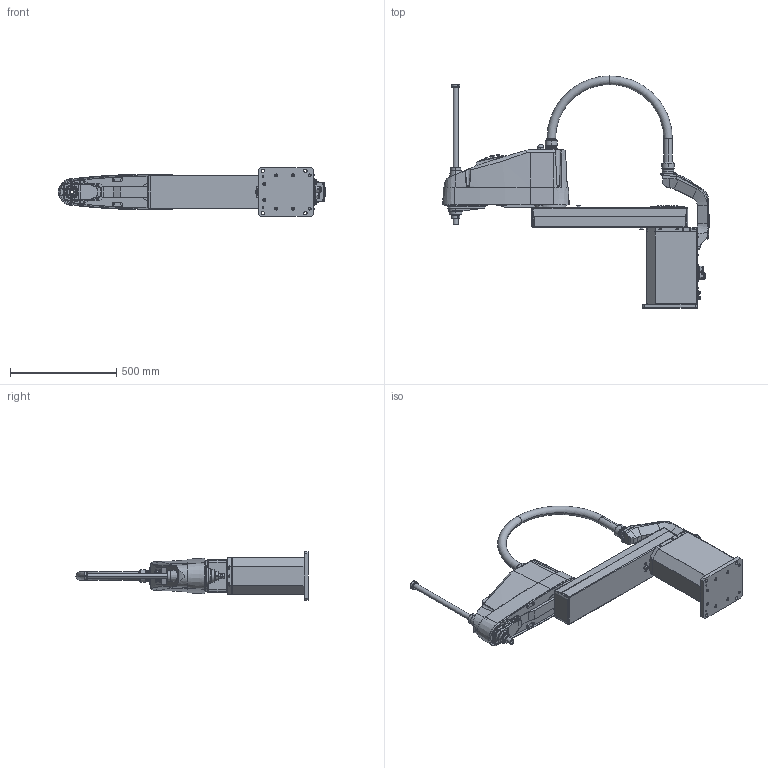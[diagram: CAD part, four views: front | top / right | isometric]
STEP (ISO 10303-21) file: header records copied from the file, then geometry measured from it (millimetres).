
FILE_DESCRIPTION((''),'2;1');
FILE_NAME('LS20-BA04S_W__ASM','2019-11-01T',('5004197'),(''),'CREO PARAMETRIC BY PTC INC, 2017480','CREO PARAMETRIC BY PTC INC, 2017480','');
FILE_SCHEMA(('AUTOMOTIVE_DESIGN { 1 0 10303 214 1 1 1 1 }'));
Products named in the file (8): _LS20-BA04S_BASE; _LS20-BA04S_J1; _LS20-BA04S_J2; _LS20-BA04S_SHAFT; _LS20-BA04S_BASE2; _LS20-BA04S_CABLE; LS20-BA04S_W__1_ASM; LS20-BA04S_W__ASM
Assembly tree (7 placements, depth 3):
  LS20-BA04S_W__ASM
    LS20-BA04S_W__1_ASM
      _LS20-BA04S_BASE
      _LS20-BA04S_J1
      _LS20-BA04S_J2
      _LS20-BA04S_SHAFT
      _LS20-BA04S_BASE2
      _LS20-BA04S_CABLE
Bounding box: 1257.3 x 1092.5 x 230 mm (x, y, z)
Volume: 45069731.3 mm3; surface area: 2016114.3 mm2
Topology: 6 solids, 6 shells, 2794 faces, 7101 edges, 4590 vertices
Faces by surface type: plane 1483, cylinder 775, cone 421, torus 67, sphere 38, bspline 10
Entity records: 112320 total; most frequent: CARTESIAN_POINT 23778, DIRECTION 14549, ORIENTED_EDGE 14090, EDGE_CURVE 7045, AXIS2_PLACEMENT_3D 5272, VERTEX_POINT 4590, VECTOR 4005, LINE 4005
